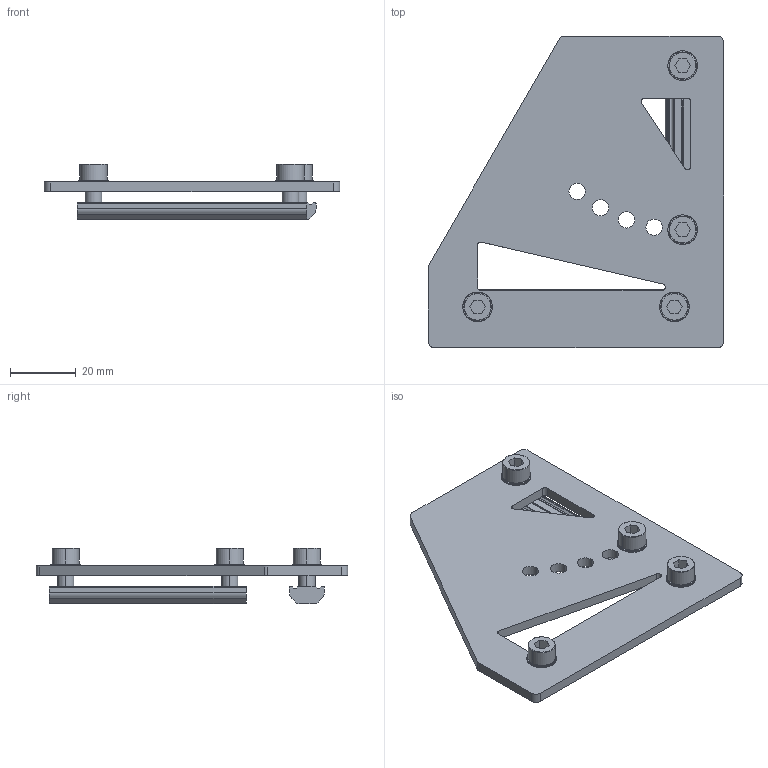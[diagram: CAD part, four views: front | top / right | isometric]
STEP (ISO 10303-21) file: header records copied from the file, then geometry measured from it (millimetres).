
FILE_DESCRIPTION (( 'STEP AP214' ), '1' );
FILE_NAME ('SFP-A90.STEP', '2019-10-31T00:46:24', ( '微软用户' ), ( '微软中国' ), 'SwSTEP 2.0', 'SolidWorks 2016', '' );
FILE_SCHEMA (( 'AUTOMOTIVE_DESIGN' ));
Length unit declared in the file: millimetre
Products named in the file (6): PTS-M5; PTN-M5P60; PTN-M5P50; PTC-M5L12; SFP-A90
Assembly tree (11 placements, depth 2):
  SFP-A90
    SFP-A90
    PTC-M5L12  x4
    PTN-M5P50
    PTN-M5P60
    PTS-M5  x4
Bounding box: 90 x 95 x 17 mm (x, y, z)
Volume: 26766.3 mm3; surface area: 21242.1 mm2
Topology: 11 solids, 11 shells, 877 faces, 2565 edges, 1702 vertices
Faces by surface type: plane 749, cylinder 104, cone 24
Entity records: 11513 total; most frequent: CARTESIAN_POINT 2326, ORIENTED_EDGE 1926, DIRECTION 1887, EDGE_CURVE 963, AXIS2_PLACEMENT_3D 649, VERTEX_POINT 640, LINE 589, VECTOR 589
